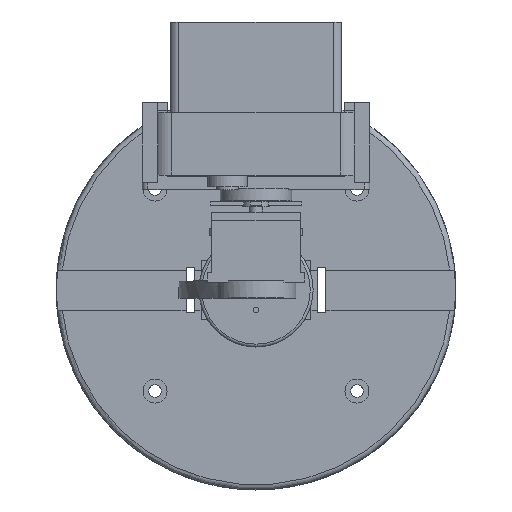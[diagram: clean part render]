
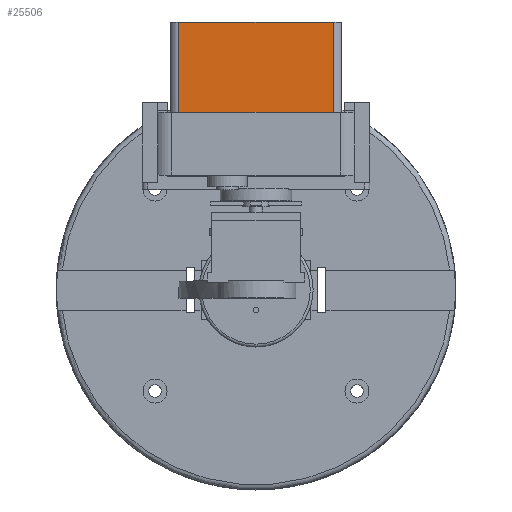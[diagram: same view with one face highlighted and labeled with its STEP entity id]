
A CAD part, top view. The second image highlights one B-rep face of the part: STEP entity #25506.
In plain terms, the highlighted planar face has unit normal (0, 0, 1).
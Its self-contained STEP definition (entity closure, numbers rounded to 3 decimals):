
#24876 = PLANE('',#24877);
#24877 = AXIS2_PLACEMENT_3D('',#24878,#24879,#24880);
#24878 = CARTESIAN_POINT('',(-30.,49.,90.));
#24879 = DIRECTION('',(0.,1.,0.));
#24880 = DIRECTION('',(0.,0.,1.));
#24932 = PLANE('',#24933);
#24933 = AXIS2_PLACEMENT_3D('',#24934,#24935,#24936);
#24934 = CARTESIAN_POINT('',(-30.,93.64,90.));
#24935 = DIRECTION('',(0.,1.,0.));
#24936 = DIRECTION('',(0.,0.,1.));
#24958 = CYLINDRICAL_SURFACE('',#24959,3.);
#24959 = AXIS2_PLACEMENT_3D('',#24960,#24961,#24962);
#24960 = CARTESIAN_POINT('',(-27.,49.,99.));
#24961 = DIRECTION('',(0.,1.,0.));
#24962 = DIRECTION('',(-1.,0.,0.));
#25031 = VERTEX_POINT('',#25032);
#25032 = CARTESIAN_POINT('',(-27.,49.,102.));
#25054 = EDGE_CURVE('',#25031,#25055,#25057,.T.);
#25055 = VERTEX_POINT('',#25056);
#25056 = CARTESIAN_POINT('',(27.,49.,102.));
#25057 = SURFACE_CURVE('',#25058,(#25062,#25069),.PCURVE_S1.);
#25058 = LINE('',#25059,#25060);
#25059 = CARTESIAN_POINT('',(-30.,49.,102.));
#25060 = VECTOR('',#25061,1.);
#25061 = DIRECTION('',(1.,0.,0.));
#25062 = PCURVE('',#24876,#25063);
#25063 = DEFINITIONAL_REPRESENTATION('',(#25064),#25068);
#25064 = LINE('',#25065,#25066);
#25065 = CARTESIAN_POINT('',(12.,0.));
#25066 = VECTOR('',#25067,1.);
#25067 = DIRECTION('',(0.,1.));
#25068 = ( GEOMETRIC_REPRESENTATION_CONTEXT(2) 
PARAMETRIC_REPRESENTATION_CONTEXT() REPRESENTATION_CONTEXT('2D SPACE',''
  ) );
#25069 = PCURVE('',#25070,#25075);
#25070 = PLANE('',#25071);
#25071 = AXIS2_PLACEMENT_3D('',#25072,#25073,#25074);
#25072 = CARTESIAN_POINT('',(-30.,49.,102.));
#25073 = DIRECTION('',(0.,0.,1.));
#25074 = DIRECTION('',(1.,0.,0.));
#25075 = DEFINITIONAL_REPRESENTATION('',(#25076),#25080);
#25076 = LINE('',#25077,#25078);
#25077 = CARTESIAN_POINT('',(0.,0.));
#25078 = VECTOR('',#25079,1.);
#25079 = DIRECTION('',(1.,0.));
#25080 = ( GEOMETRIC_REPRESENTATION_CONTEXT(2) 
PARAMETRIC_REPRESENTATION_CONTEXT() REPRESENTATION_CONTEXT('2D SPACE',''
  ) );
#25103 = CYLINDRICAL_SURFACE('',#25104,3.);
#25104 = AXIS2_PLACEMENT_3D('',#25105,#25106,#25107);
#25105 = CARTESIAN_POINT('',(27.,49.,99.));
#25106 = DIRECTION('',(0.,1.,0.));
#25107 = DIRECTION('',(1.,0.,-0.));
#25228 = EDGE_CURVE('',#25031,#25229,#25231,.T.);
#25229 = VERTEX_POINT('',#25230);
#25230 = CARTESIAN_POINT('',(-27.,93.64,102.));
#25231 = SURFACE_CURVE('',#25232,(#25236,#25243),.PCURVE_S1.);
#25232 = LINE('',#25233,#25234);
#25233 = CARTESIAN_POINT('',(-27.,49.,102.));
#25234 = VECTOR('',#25235,1.);
#25235 = DIRECTION('',(0.,1.,0.));
#25236 = PCURVE('',#24958,#25237);
#25237 = DEFINITIONAL_REPRESENTATION('',(#25238),#25242);
#25238 = LINE('',#25239,#25240);
#25239 = CARTESIAN_POINT('',(1.571,0.));
#25240 = VECTOR('',#25241,1.);
#25241 = DIRECTION('',(0.,1.));
#25242 = ( GEOMETRIC_REPRESENTATION_CONTEXT(2) 
PARAMETRIC_REPRESENTATION_CONTEXT() REPRESENTATION_CONTEXT('2D SPACE',''
  ) );
#25243 = PCURVE('',#25070,#25244);
#25244 = DEFINITIONAL_REPRESENTATION('',(#25245),#25249);
#25245 = LINE('',#25246,#25247);
#25246 = CARTESIAN_POINT('',(3.,0.));
#25247 = VECTOR('',#25248,1.);
#25248 = DIRECTION('',(0.,1.));
#25249 = ( GEOMETRIC_REPRESENTATION_CONTEXT(2) 
PARAMETRIC_REPRESENTATION_CONTEXT() REPRESENTATION_CONTEXT('2D SPACE',''
  ) );
#25303 = EDGE_CURVE('',#25229,#25304,#25306,.T.);
#25304 = VERTEX_POINT('',#25305);
#25305 = CARTESIAN_POINT('',(27.,93.64,102.));
#25306 = SURFACE_CURVE('',#25307,(#25311,#25318),.PCURVE_S1.);
#25307 = LINE('',#25308,#25309);
#25308 = CARTESIAN_POINT('',(-30.,93.64,102.));
#25309 = VECTOR('',#25310,1.);
#25310 = DIRECTION('',(1.,0.,0.));
#25311 = PCURVE('',#24932,#25312);
#25312 = DEFINITIONAL_REPRESENTATION('',(#25313),#25317);
#25313 = LINE('',#25314,#25315);
#25314 = CARTESIAN_POINT('',(12.,0.));
#25315 = VECTOR('',#25316,1.);
#25316 = DIRECTION('',(0.,1.));
#25317 = ( GEOMETRIC_REPRESENTATION_CONTEXT(2) 
PARAMETRIC_REPRESENTATION_CONTEXT() REPRESENTATION_CONTEXT('2D SPACE',''
  ) );
#25318 = PCURVE('',#25070,#25319);
#25319 = DEFINITIONAL_REPRESENTATION('',(#25320),#25324);
#25320 = LINE('',#25321,#25322);
#25321 = CARTESIAN_POINT('',(0.,44.64));
#25322 = VECTOR('',#25323,1.);
#25323 = DIRECTION('',(1.,0.));
#25324 = ( GEOMETRIC_REPRESENTATION_CONTEXT(2) 
PARAMETRIC_REPRESENTATION_CONTEXT() REPRESENTATION_CONTEXT('2D SPACE',''
  ) );
#25484 = EDGE_CURVE('',#25055,#25304,#25485,.T.);
#25485 = SURFACE_CURVE('',#25486,(#25490,#25497),.PCURVE_S1.);
#25486 = LINE('',#25487,#25488);
#25487 = CARTESIAN_POINT('',(27.,49.,102.));
#25488 = VECTOR('',#25489,1.);
#25489 = DIRECTION('',(0.,1.,0.));
#25490 = PCURVE('',#25103,#25491);
#25491 = DEFINITIONAL_REPRESENTATION('',(#25492),#25496);
#25492 = LINE('',#25493,#25494);
#25493 = CARTESIAN_POINT('',(-1.571,0.));
#25494 = VECTOR('',#25495,1.);
#25495 = DIRECTION('',(-0.,1.));
#25496 = ( GEOMETRIC_REPRESENTATION_CONTEXT(2) 
PARAMETRIC_REPRESENTATION_CONTEXT() REPRESENTATION_CONTEXT('2D SPACE',''
  ) );
#25497 = PCURVE('',#25070,#25498);
#25498 = DEFINITIONAL_REPRESENTATION('',(#25499),#25503);
#25499 = LINE('',#25500,#25501);
#25500 = CARTESIAN_POINT('',(57.,0.));
#25501 = VECTOR('',#25502,1.);
#25502 = DIRECTION('',(0.,1.));
#25503 = ( GEOMETRIC_REPRESENTATION_CONTEXT(2) 
PARAMETRIC_REPRESENTATION_CONTEXT() REPRESENTATION_CONTEXT('2D SPACE',''
  ) );
#25506 = ADVANCED_FACE('',(#25507),#25070,.T.);
#25507 = FACE_BOUND('',#25508,.T.);
#25508 = EDGE_LOOP('',(#25509,#25510,#25511,#25512));
#25509 = ORIENTED_EDGE('',*,*,#25303,.F.);
#25510 = ORIENTED_EDGE('',*,*,#25228,.F.);
#25511 = ORIENTED_EDGE('',*,*,#25054,.T.);
#25512 = ORIENTED_EDGE('',*,*,#25484,.T.);
